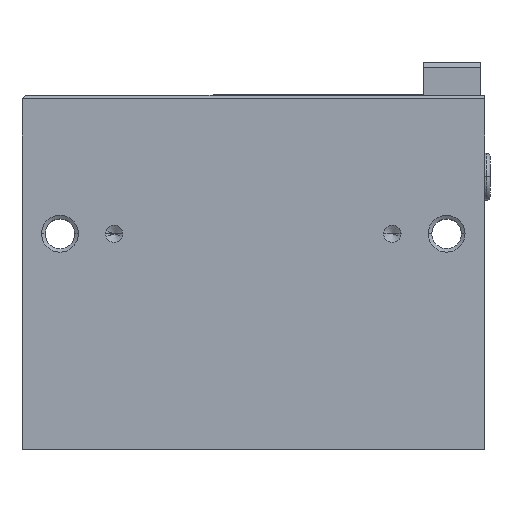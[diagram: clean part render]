
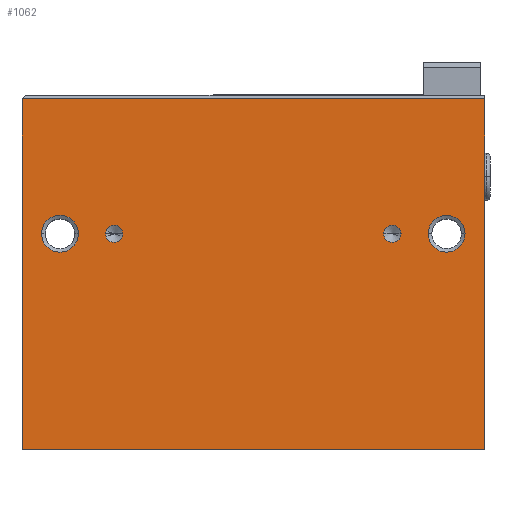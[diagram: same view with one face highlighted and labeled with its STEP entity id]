
A CAD part, top view. The second image highlights one B-rep face of the part: STEP entity #1062.
In plain terms, the highlighted planar face has unit normal (0, 0, 1).
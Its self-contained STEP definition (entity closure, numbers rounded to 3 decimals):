
#63 = VERTEX_POINT ( 'NONE', #4485 ) ;
#155 = CARTESIAN_POINT ( 'NONE',  ( 100.1, 59.7, 56. ) ) ;
#164 = DIRECTION ( 'NONE',  ( 0., 0., 1. ) ) ;
#202 = VERTEX_POINT ( 'NONE', #4259 ) ;
#211 = CARTESIAN_POINT ( 'NONE',  ( 117.5, 59.7, 56. ) ) ;
#346 = DIRECTION ( 'NONE',  ( -1., 0., 0. ) ) ;
#371 = EDGE_CURVE ( 'NONE', #202, #5989, #2132, .T. ) ;
#452 = LINE ( 'NONE', #4589, #3827 ) ;
#454 = ORIENTED_EDGE ( 'NONE', *, *, #6654, .F. ) ;
#459 = CARTESIAN_POINT ( 'NONE',  ( 25.5, 59.7, 56. ) ) ;
#508 = DIRECTION ( 'NONE',  ( 0., 0., 1. ) ) ;
#514 = DIRECTION ( 'NONE',  ( 1., 0., 0. ) ) ;
#537 = ORIENTED_EDGE ( 'NONE', *, *, #2243, .F. ) ;
#543 = CARTESIAN_POINT ( 'NONE',  ( 5.4, 59.7, 56. ) ) ;
#625 = DIRECTION ( 'NONE',  ( 0., 0., 1. ) ) ;
#713 = CIRCLE ( 'NONE', #2039, 5.1 ) ;
#753 = EDGE_CURVE ( 'NONE', #2464, #202, #1854, .T. ) ;
#780 = VERTEX_POINT ( 'NONE', #4158 ) ;
#807 = VERTEX_POINT ( 'NONE', #2733 ) ;
#827 = EDGE_LOOP ( 'NONE', ( #3738, #4100 ) ) ;
#1062 = ADVANCED_FACE ( 'NONE', ( #1334, #1268, #1327, #1345, #1314 ), #7305, .F. ) ;
#1075 = ORIENTED_EDGE ( 'NONE', *, *, #4438, .F. ) ;
#1120 = EDGE_CURVE ( 'NONE', #780, #2464, #1164, .T. ) ;
#1147 = VECTOR ( 'NONE', #6158, 1000. ) ;
#1164 = LINE ( 'NONE', #5740, #1147 ) ;
#1268 = FACE_BOUND ( 'NONE', #827, .T. ) ;
#1314 = FACE_OUTER_BOUND ( 'NONE', #6548, .T. ) ;
#1327 = FACE_BOUND ( 'NONE', #2976, .T. ) ;
#1334 = FACE_BOUND ( 'NONE', #3308, .T. ) ;
#1345 = FACE_BOUND ( 'NONE', #6810, .T. ) ;
#1382 = AXIS2_PLACEMENT_3D ( 'NONE', #7304, #625, #4634 ) ;
#1383 = CIRCLE ( 'NONE', #2390, 5.1 ) ;
#1472 = EDGE_CURVE ( 'NONE', #1514, #4781, #713, .T. ) ;
#1514 = VERTEX_POINT ( 'NONE', #4106 ) ;
#1688 = ORIENTED_EDGE ( 'NONE', *, *, #4594, .F. ) ;
#1705 = VECTOR ( 'NONE', #6549, 1000. ) ;
#1765 = CARTESIAN_POINT ( 'NONE',  ( 0., 97., 56. ) ) ;
#1767 = DIRECTION ( 'NONE',  ( 1., 0., 0. ) ) ;
#1820 = VERTEX_POINT ( 'NONE', #543 ) ;
#1854 = LINE ( 'NONE', #2740, #1705 ) ;
#1965 = VERTEX_POINT ( 'NONE', #7252 ) ;
#2039 = AXIS2_PLACEMENT_3D ( 'NONE', #3199, #4038, #1767 ) ;
#2095 = VECTOR ( 'NONE', #3480, 1000. ) ;
#2132 = LINE ( 'NONE', #6525, #2095 ) ;
#2243 = EDGE_CURVE ( 'NONE', #807, #1820, #2928, .T. ) ;
#2346 = AXIS2_PLACEMENT_3D ( 'NONE', #3690, #6821, #346 ) ;
#2390 = AXIS2_PLACEMENT_3D ( 'NONE', #211, #3611, #4484 ) ;
#2464 = VERTEX_POINT ( 'NONE', #1765 ) ;
#2571 = ORIENTED_EDGE ( 'NONE', *, *, #4979, .T. ) ;
#2733 = CARTESIAN_POINT ( 'NONE',  ( 15.6, 59.7, 56. ) ) ;
#2740 = CARTESIAN_POINT ( 'NONE',  ( 0., 0., 56. ) ) ;
#2928 = CIRCLE ( 'NONE', #1382, 5.1 ) ;
#2949 = ORIENTED_EDGE ( 'NONE', *, *, #371, .T. ) ;
#2965 = DIRECTION ( 'NONE',  ( 1., 0., 0. ) ) ;
#2976 = EDGE_LOOP ( 'NONE', ( #7061, #1688 ) ) ;
#2988 = CARTESIAN_POINT ( 'NONE',  ( 25.5, 59.7, 56. ) ) ;
#3037 = DIRECTION ( 'NONE',  ( 0., 0., 1. ) ) ;
#3199 = CARTESIAN_POINT ( 'NONE',  ( 117.5, 59.7, 56. ) ) ;
#3224 = ORIENTED_EDGE ( 'NONE', *, *, #1120, .T. ) ;
#3308 = EDGE_LOOP ( 'NONE', ( #537, #454 ) ) ;
#3480 = DIRECTION ( 'NONE',  ( 1., 0., 0. ) ) ;
#3520 = CIRCLE ( 'NONE', #7447, 2.4 ) ;
#3556 = VERTEX_POINT ( 'NONE', #155 ) ;
#3565 = DIRECTION ( 'NONE',  ( 1., 0., 0. ) ) ;
#3589 = CARTESIAN_POINT ( 'NONE',  ( 128., 0., 56. ) ) ;
#3611 = DIRECTION ( 'NONE',  ( 0., 0., 1. ) ) ;
#3690 = CARTESIAN_POINT ( 'NONE',  ( 0., 98., 56. ) ) ;
#3738 = ORIENTED_EDGE ( 'NONE', *, *, #4182, .F. ) ;
#3827 = VECTOR ( 'NONE', #3836, 1000. ) ;
#3836 = DIRECTION ( 'NONE',  ( 0., 1., 0. ) ) ;
#4038 = DIRECTION ( 'NONE',  ( 0., 0., 1. ) ) ;
#4100 = ORIENTED_EDGE ( 'NONE', *, *, #1472, .F. ) ;
#4106 = CARTESIAN_POINT ( 'NONE',  ( 112.4, 59.7, 56. ) ) ;
#4155 = CARTESIAN_POINT ( 'NONE',  ( 10.5, 59.7, 56. ) ) ;
#4158 = CARTESIAN_POINT ( 'NONE',  ( 128., 97., 56. ) ) ;
#4182 = EDGE_CURVE ( 'NONE', #4781, #1514, #1383, .T. ) ;
#4259 = CARTESIAN_POINT ( 'NONE',  ( 0., 0., 56. ) ) ;
#4289 = CIRCLE ( 'NONE', #6850, 2.4 ) ;
#4315 = VERTEX_POINT ( 'NONE', #6696 ) ;
#4438 = EDGE_CURVE ( 'NONE', #63, #3556, #3520, .T. ) ;
#4484 = DIRECTION ( 'NONE',  ( 1., 0., 0. ) ) ;
#4485 = CARTESIAN_POINT ( 'NONE',  ( 104.9, 59.7, 56. ) ) ;
#4518 = EDGE_CURVE ( 'NONE', #3556, #63, #4997, .T. ) ;
#4589 = CARTESIAN_POINT ( 'NONE',  ( 128., 0., 56. ) ) ;
#4594 = EDGE_CURVE ( 'NONE', #1965, #4315, #6078, .T. ) ;
#4634 = DIRECTION ( 'NONE',  ( 1., 0., 0. ) ) ;
#4781 = VERTEX_POINT ( 'NONE', #5815 ) ;
#4979 = EDGE_CURVE ( 'NONE', #5989, #780, #452, .T. ) ;
#4997 = CIRCLE ( 'NONE', #7385, 2.4 ) ;
#5157 = DIRECTION ( 'NONE',  ( 1., 0., 0. ) ) ;
#5257 = EDGE_CURVE ( 'NONE', #4315, #1965, #4289, .T. ) ;
#5604 = AXIS2_PLACEMENT_3D ( 'NONE', #4155, #164, #3565 ) ;
#5740 = CARTESIAN_POINT ( 'NONE',  ( 0., 97., 56. ) ) ;
#5744 = ORIENTED_EDGE ( 'NONE', *, *, #4518, .F. ) ;
#5815 = CARTESIAN_POINT ( 'NONE',  ( 122.6, 59.7, 56. ) ) ;
#5859 = ORIENTED_EDGE ( 'NONE', *, *, #753, .T. ) ;
#5989 = VERTEX_POINT ( 'NONE', #3589 ) ;
#6031 = DIRECTION ( 'NONE',  ( 1., 0., 0. ) ) ;
#6078 = CIRCLE ( 'NONE', #7249, 2.4 ) ;
#6129 = DIRECTION ( 'NONE',  ( 0., 0., 1. ) ) ;
#6158 = DIRECTION ( 'NONE',  ( -1., 0., 0. ) ) ;
#6210 = CIRCLE ( 'NONE', #5604, 5.1 ) ;
#6485 = CARTESIAN_POINT ( 'NONE',  ( 102.5, 59.7, 56. ) ) ;
#6525 = CARTESIAN_POINT ( 'NONE',  ( 0., 0., 56. ) ) ;
#6548 = EDGE_LOOP ( 'NONE', ( #2571, #3224, #5859, #2949 ) ) ;
#6549 = DIRECTION ( 'NONE',  ( 0., -1., 0. ) ) ;
#6654 = EDGE_CURVE ( 'NONE', #1820, #807, #6210, .T. ) ;
#6696 = CARTESIAN_POINT ( 'NONE',  ( 27.9, 59.7, 56. ) ) ;
#6810 = EDGE_LOOP ( 'NONE', ( #1075, #5744 ) ) ;
#6821 = DIRECTION ( 'NONE',  ( 0., 0., -1. ) ) ;
#6850 = AXIS2_PLACEMENT_3D ( 'NONE', #2988, #3037, #2965 ) ;
#7061 = ORIENTED_EDGE ( 'NONE', *, *, #5257, .F. ) ;
#7249 = AXIS2_PLACEMENT_3D ( 'NONE', #459, #508, #514 ) ;
#7252 = CARTESIAN_POINT ( 'NONE',  ( 23.1, 59.7, 56. ) ) ;
#7304 = CARTESIAN_POINT ( 'NONE',  ( 10.5, 59.7, 56. ) ) ;
#7305 = PLANE ( 'NONE',  #2346 ) ;
#7385 = AXIS2_PLACEMENT_3D ( 'NONE', #7485, #6129, #6031 ) ;
#7447 = AXIS2_PLACEMENT_3D ( 'NONE', #6485, #7508, #5157 ) ;
#7485 = CARTESIAN_POINT ( 'NONE',  ( 102.5, 59.7, 56. ) ) ;
#7508 = DIRECTION ( 'NONE',  ( 0., 0., 1. ) ) ;
